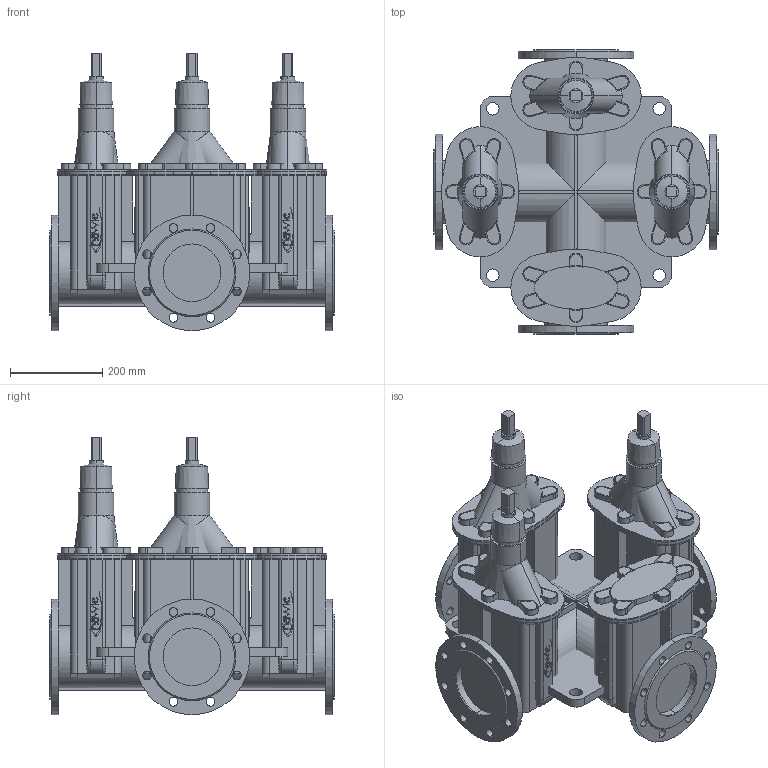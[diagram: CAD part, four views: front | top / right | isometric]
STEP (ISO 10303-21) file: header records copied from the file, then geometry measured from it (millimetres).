
FILE_DESCRIPTION(('STEP AP214'),'1');
FILE_NAME('S:/EK/USER/CAT6/3DHomepage_27-04-2012/neu_23-01-2013/4400E2/4400E2_PN16_DN125_3_9-12-3-B.STP','2013-02-22T08:22:06',(' '),(' '),'Spatial InterOp 3D',' ',' ');
FILE_SCHEMA(('automotive_design'));
Length unit declared in the file: millimetre
Products named in the file (194): 3D-Objekt
Bounding box: 615 x 615 x 600 mm (x, y, z)
Volume: 52807794.5 mm3; surface area: 4343425.9 mm2
Topology: 194 solids, 194 shells, 1842 faces, 4328 edges, 2882 vertices
Faces by surface type: plane 992, cylinder 792, cone 26, bspline 16, torus 16
Entity records: 72932 total; most frequent: DIRECTION 10092, CARTESIAN_POINT 9518, ORIENTED_EDGE 8656, EDGE_CURVE 4328, AXIS2_PLACEMENT_3D 3744, VERTEX_POINT 2882, LINE 2604, VECTOR 2604
